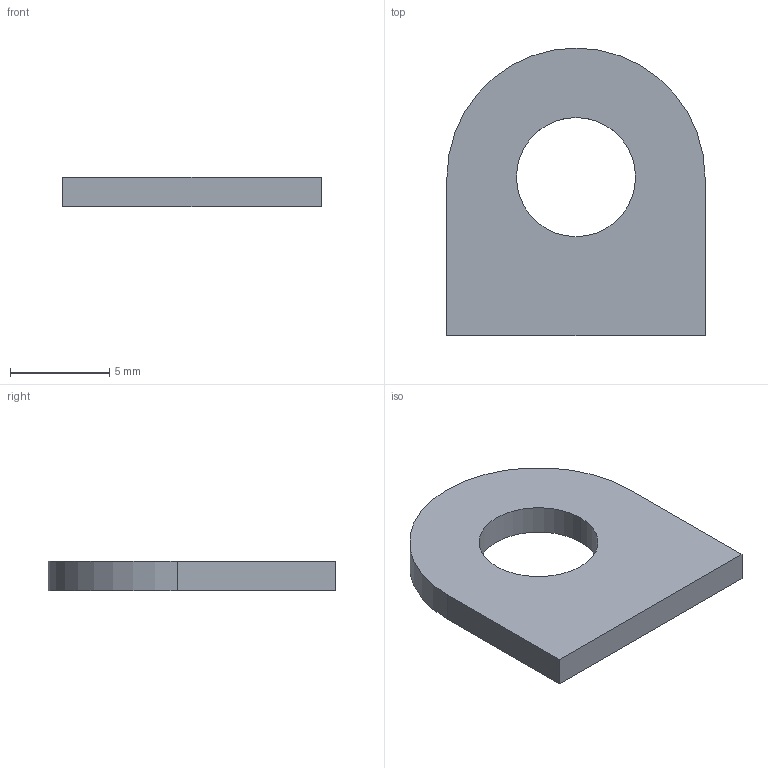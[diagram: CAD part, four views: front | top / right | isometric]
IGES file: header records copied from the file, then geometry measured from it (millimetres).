
Start section: START RECORD GO HERE.
Global section: file name: Bracket_Earth_ess.igs; native system: IBM CATIA IGES - CATIA Version 5 Release 19 ; preprocessor: CATIA Version 5 Release 19 ; author: maxim; organization: LAPTOP-3J4HBL65; date: 20181211.102204; units: millimetre
Bounding box: 13 x 14.5 x 1.5 mm (x, y, z)
Surface area: 386.6 mm2 (no closed solid volume)
Topology: 0 solids, 0 shells, 8 faces, 36 edges, 36 vertices
Faces by surface type: plane 5, revolution 3
